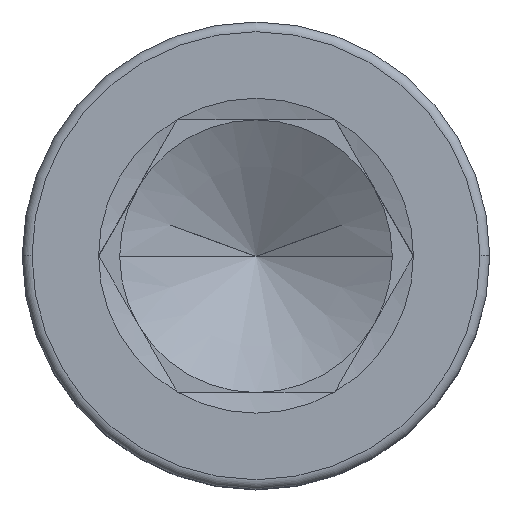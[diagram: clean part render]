
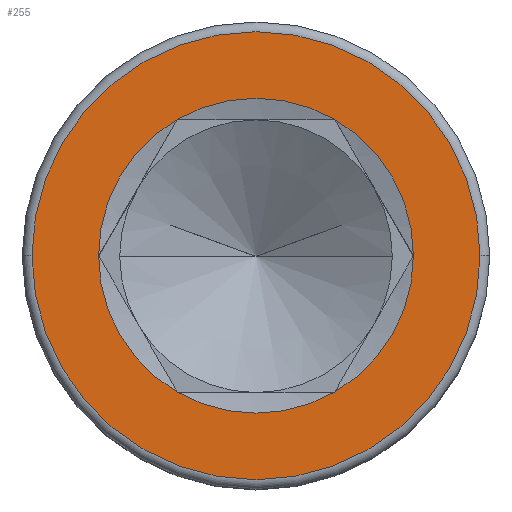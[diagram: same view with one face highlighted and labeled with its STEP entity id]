
A CAD part, top view. The second image highlights one B-rep face of the part: STEP entity #255.
In plain terms, the highlighted planar face has unit normal (0, 0, 1).
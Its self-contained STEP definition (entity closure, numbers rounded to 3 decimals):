
#2 = ORIENTED_EDGE ( 'NONE', *, *, #1856, .F. ) ;
#75 = CARTESIAN_POINT ( 'NONE',  ( 0., 0., 16. ) ) ;
#87 = DIRECTION ( 'NONE',  ( 0., 0., 1. ) ) ;
#97 = CARTESIAN_POINT ( 'NONE',  ( 0., 0., 16. ) ) ;
#100 = EDGE_CURVE ( 'NONE', #682, #1606, #110, .T. ) ;
#110 = CIRCLE ( 'NONE', #1942, 8.083 ) ;
#186 = AXIS2_PLACEMENT_3D ( 'NONE', #97, #1436, #1444 ) ;
#232 = DIRECTION ( 'NONE',  ( 0., 0., 1. ) ) ;
#241 = AXIS2_PLACEMENT_3D ( 'NONE', #1815, #1087, #444 ) ;
#255 = ADVANCED_FACE ( 'NONE', ( #856, #262 ), #1314, .T. ) ;
#262 = FACE_BOUND ( 'NONE', #1636, .T. ) ;
#269 = CARTESIAN_POINT ( 'NONE',  ( 0., 0., 16. ) ) ;
#278 = EDGE_CURVE ( 'NONE', #1696, #619, #1844, .T. ) ;
#314 = DIRECTION ( 'NONE',  ( 0., 0., 1. ) ) ;
#364 = CARTESIAN_POINT ( 'NONE',  ( 4.041, 7., 16. ) ) ;
#385 = DIRECTION ( 'NONE',  ( 0., 0., 1. ) ) ;
#428 = VERTEX_POINT ( 'NONE', #1066 ) ;
#444 = DIRECTION ( 'NONE',  ( 1., 0., 0. ) ) ;
#447 = AXIS2_PLACEMENT_3D ( 'NONE', #1657, #1492, #1953 ) ;
#448 = ORIENTED_EDGE ( 'NONE', *, *, #100, .F. ) ;
#460 = EDGE_CURVE ( 'NONE', #1241, #1849, #594, .T. ) ;
#468 = ORIENTED_EDGE ( 'NONE', *, *, #278, .F. ) ;
#511 = CARTESIAN_POINT ( 'NONE',  ( -8.083, 0., 16. ) ) ;
#512 = DIRECTION ( 'NONE',  ( 1., 0., 0. ) ) ;
#519 = CARTESIAN_POINT ( 'NONE',  ( 4.041, -7., 16. ) ) ;
#539 = CIRCLE ( 'NONE', #1697, 11.5 ) ;
#579 = ORIENTED_EDGE ( 'NONE', *, *, #1799, .T. ) ;
#594 = CIRCLE ( 'NONE', #241, 11.5 ) ;
#619 = VERTEX_POINT ( 'NONE', #511 ) ;
#624 = CARTESIAN_POINT ( 'NONE',  ( 0., 0., 16. ) ) ;
#643 = CARTESIAN_POINT ( 'NONE',  ( -4.041, 7., 16. ) ) ;
#651 = CARTESIAN_POINT ( 'NONE',  ( 8.083, 0., 16. ) ) ;
#682 = VERTEX_POINT ( 'NONE', #519 ) ;
#711 = EDGE_LOOP ( 'NONE', ( #579, #834 ) ) ;
#781 = EDGE_CURVE ( 'NONE', #428, #682, #1273, .T. ) ;
#802 = CIRCLE ( 'NONE', #1532, 8.083 ) ;
#834 = ORIENTED_EDGE ( 'NONE', *, *, #460, .T. ) ;
#849 = ORIENTED_EDGE ( 'NONE', *, *, #1932, .F. ) ;
#856 = FACE_OUTER_BOUND ( 'NONE', #711, .T. ) ;
#863 = CIRCLE ( 'NONE', #447, 8.083 ) ;
#987 = DIRECTION ( 'NONE',  ( 0., 0., 1. ) ) ;
#1015 = DIRECTION ( 'NONE',  ( 1., 0., 0. ) ) ;
#1022 = CARTESIAN_POINT ( 'NONE',  ( -11.5, 0., 16. ) ) ;
#1054 = CIRCLE ( 'NONE', #186, 8.083 ) ;
#1066 = CARTESIAN_POINT ( 'NONE',  ( -4.041, -7., 16. ) ) ;
#1087 = DIRECTION ( 'NONE',  ( 0., 0., 1. ) ) ;
#1133 = CARTESIAN_POINT ( 'NONE',  ( 0., 0., 16. ) ) ;
#1167 = ORIENTED_EDGE ( 'NONE', *, *, #781, .F. ) ;
#1241 = VERTEX_POINT ( 'NONE', #1022 ) ;
#1273 = CIRCLE ( 'NONE', #1429, 8.083 ) ;
#1287 = DIRECTION ( 'NONE',  ( 1., 0., 0. ) ) ;
#1314 = PLANE ( 'NONE',  #1395 ) ;
#1323 = CARTESIAN_POINT ( 'NONE',  ( 0., 0., 16. ) ) ;
#1395 = AXIS2_PLACEMENT_3D ( 'NONE', #1323, #385, #1015 ) ;
#1429 = AXIS2_PLACEMENT_3D ( 'NONE', #1795, #1596, #1637 ) ;
#1436 = DIRECTION ( 'NONE',  ( 0., 0., 1. ) ) ;
#1444 = DIRECTION ( 'NONE',  ( 1., 0., 0. ) ) ;
#1471 = ORIENTED_EDGE ( 'NONE', *, *, #1824, .F. ) ;
#1492 = DIRECTION ( 'NONE',  ( 0., 0., 1. ) ) ;
#1532 = AXIS2_PLACEMENT_3D ( 'NONE', #75, #87, #512 ) ;
#1596 = DIRECTION ( 'NONE',  ( 0., 0., 1. ) ) ;
#1606 = VERTEX_POINT ( 'NONE', #651 ) ;
#1617 = CARTESIAN_POINT ( 'NONE',  ( 11.5, 0., 16. ) ) ;
#1630 = DIRECTION ( 'NONE',  ( 1., 0., 0. ) ) ;
#1636 = EDGE_LOOP ( 'NONE', ( #1471, #448, #1167, #2, #468, #849 ) ) ;
#1637 = DIRECTION ( 'NONE',  ( 1., 0., 0. ) ) ;
#1657 = CARTESIAN_POINT ( 'NONE',  ( 0., 0., 16. ) ) ;
#1691 = DIRECTION ( 'NONE',  ( 1., 0., 0. ) ) ;
#1696 = VERTEX_POINT ( 'NONE', #643 ) ;
#1697 = AXIS2_PLACEMENT_3D ( 'NONE', #1133, #987, #1287 ) ;
#1795 = CARTESIAN_POINT ( 'NONE',  ( 0., 0., 16. ) ) ;
#1799 = EDGE_CURVE ( 'NONE', #1849, #1241, #539, .T. ) ;
#1812 = AXIS2_PLACEMENT_3D ( 'NONE', #269, #232, #1630 ) ;
#1815 = CARTESIAN_POINT ( 'NONE',  ( 0., 0., 16. ) ) ;
#1824 = EDGE_CURVE ( 'NONE', #1606, #1851, #802, .T. ) ;
#1844 = CIRCLE ( 'NONE', #1812, 8.083 ) ;
#1849 = VERTEX_POINT ( 'NONE', #1617 ) ;
#1851 = VERTEX_POINT ( 'NONE', #364 ) ;
#1856 = EDGE_CURVE ( 'NONE', #619, #428, #1054, .T. ) ;
#1932 = EDGE_CURVE ( 'NONE', #1851, #1696, #863, .T. ) ;
#1942 = AXIS2_PLACEMENT_3D ( 'NONE', #624, #314, #1691 ) ;
#1953 = DIRECTION ( 'NONE',  ( 1., 0., 0. ) ) ;
